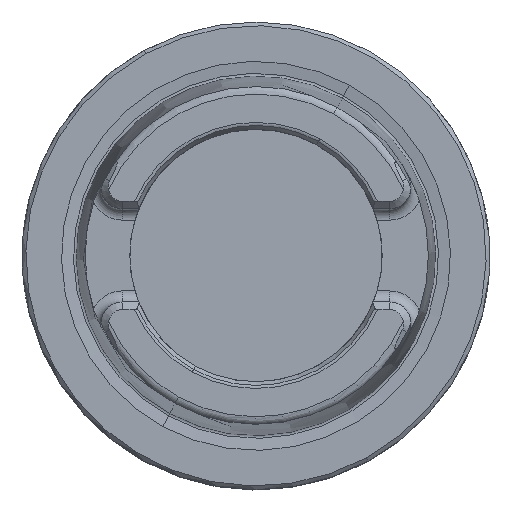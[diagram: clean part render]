
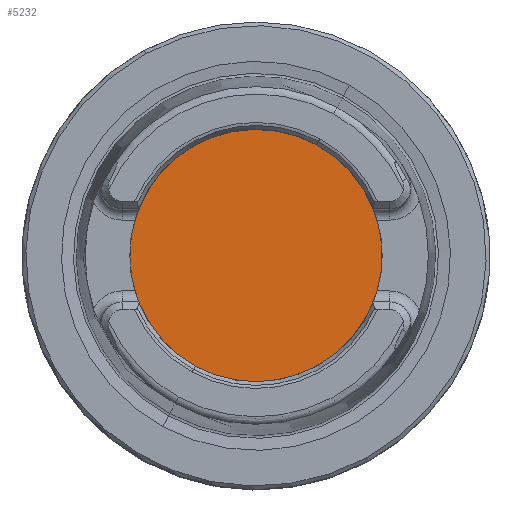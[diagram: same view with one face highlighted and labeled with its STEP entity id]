
A CAD part, top view. The second image highlights one B-rep face of the part: STEP entity #5232.
In plain terms, the highlighted planar face has unit normal (0, 0, 1).
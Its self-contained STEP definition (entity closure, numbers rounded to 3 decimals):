
#4646=AXIS2_PLACEMENT_3D('Circle Axis2P3D',#4644,#4645,$) ;
#5226=AXIS2_PLACEMENT_3D('Plane Axis2P3D',#5223,#5224,#5225) ;
#4641=CARTESIAN_POINT('Vertex',(-8.15,-14.919,19.)) ;
#4644=CARTESIAN_POINT('Axis2P3D Location',(0.,0.,19.)) ;
#4648=CARTESIAN_POINT('Vertex',(8.15,14.919,19.)) ;
#4900=CARTESIAN_POINT('Control Point',(8.15,14.919,19.)) ;
#4901=CARTESIAN_POINT('Control Point',(10.494,13.639,19.)) ;
#4902=CARTESIAN_POINT('Control Point',(12.586,11.898,19.)) ;
#4903=CARTESIAN_POINT('Control Point',(14.306,9.763,19.)) ;
#4904=CARTESIAN_POINT('Control Point',(16.815,4.934,19.)) ;
#4905=CARTESIAN_POINT('Control Point',(17.313,-0.486,19.)) ;
#4906=CARTESIAN_POINT('Control Point',(17.019,-3.212,19.)) ;
#4907=CARTESIAN_POINT('Control Point',(15.379,-8.402,19.)) ;
#4908=CARTESIAN_POINT('Control Point',(11.898,-12.586,19.)) ;
#4909=CARTESIAN_POINT('Control Point',(9.763,-14.306,19.)) ;
#4910=CARTESIAN_POINT('Control Point',(4.934,-16.815,19.)) ;
#4911=CARTESIAN_POINT('Control Point',(-0.486,-17.313,19.)) ;
#4912=CARTESIAN_POINT('Control Point',(-3.212,-17.019,19.)) ;
#4913=CARTESIAN_POINT('Control Point',(-5.807,-16.199,19.)) ;
#4914=CARTESIAN_POINT('Control Point',(-8.15,-14.919,19.)) ;
#5223=CARTESIAN_POINT('Axis2P3D Location',(0.,0.,19.)) ;
#4645=DIRECTION('Axis2P3D Direction',(0.,0.,1.)) ;
#5224=DIRECTION('Axis2P3D Direction',(0.,0.,-1.)) ;
#5225=DIRECTION('Axis2P3D XDirection',(1.,0.,0.)) ;
#5229=ORIENTED_EDGE('',*,*,#4650,.T.) ;
#5230=ORIENTED_EDGE('',*,*,#4915,.T.) ;
#5232=ADVANCED_FACE('NO_CUT',(#5231),#5227,.F.) ;
#4899=B_SPLINE_CURVE_WITH_KNOTS('',5,(#4900,#4901,#4902,#4903,#4904,#4905,#4906,#4907,#4908,#4909,#4910,#4911,#4912,#4913,#4914),.UNSPECIFIED.,.F.,.U.,(6,3,3,3,6),(-26.704,-13.352,0.,13.352,26.704),.UNSPECIFIED.) ;
#4647=CIRCLE('generated circle',#4646,17.) ;
#4650=EDGE_CURVE('',#4649,#4642,#4647,.T.) ;
#4915=EDGE_CURVE('',#4642,#4649,#4899,.F.) ;
#5228=EDGE_LOOP('',(#5229,#5230)) ;
#5231=FACE_OUTER_BOUND('',#5228,.T.) ;
#5227=PLANE('',#5226) ;
#4642=VERTEX_POINT('',#4641) ;
#4649=VERTEX_POINT('',#4648) ;
